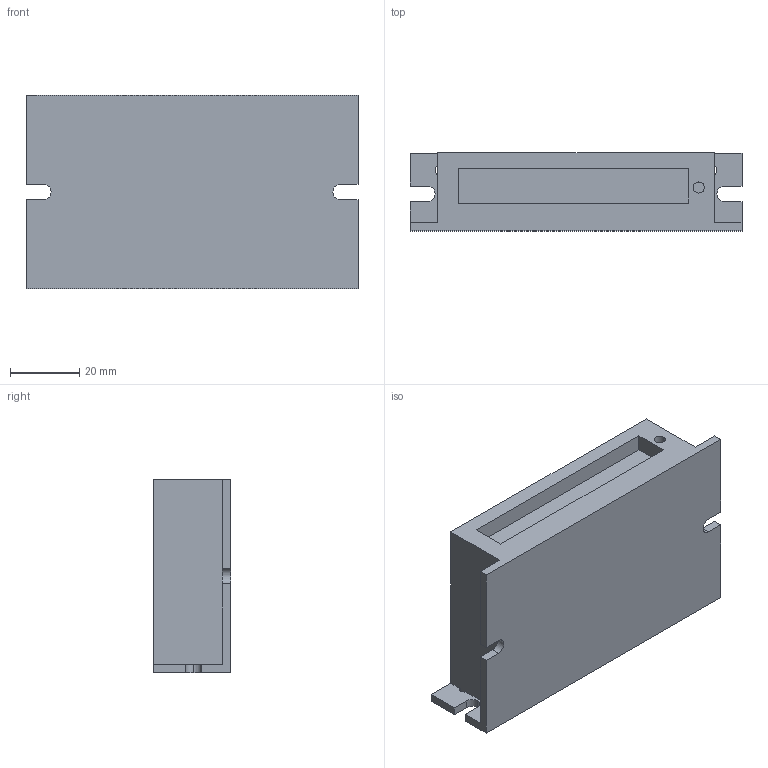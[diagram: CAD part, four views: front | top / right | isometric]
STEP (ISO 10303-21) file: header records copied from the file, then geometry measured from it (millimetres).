
FILE_DESCRIPTION (( 'STEP AP203' ), '1' );
FILE_NAME ('24V-250W.STEP', '2025-02-13T02:54:11', ( '' ), ( '' ), 'SwSTEP 2.0', 'SolidWorks 2022', '' );
FILE_SCHEMA (( 'CONFIG_CONTROL_DESIGN' ));
Length unit declared in the file: millimetre
Products named in the file (1): 24V-250W
Bounding box: 96 x 22.5 x 56 mm (x, y, z)
Volume: 100108.6 mm3; surface area: 18346.7 mm2
Topology: 1 solids, 1 shells, 51 faces, 143 edges, 94 vertices
Faces by surface type: plane 40, cylinder 11
Entity records: 1716 total; most frequent: CARTESIAN_POINT 289, ORIENTED_EDGE 286, DIRECTION 273, EDGE_CURVE 143, LINE 117, VECTOR 117, VERTEX_POINT 94, AXIS2_PLACEMENT_3D 78
